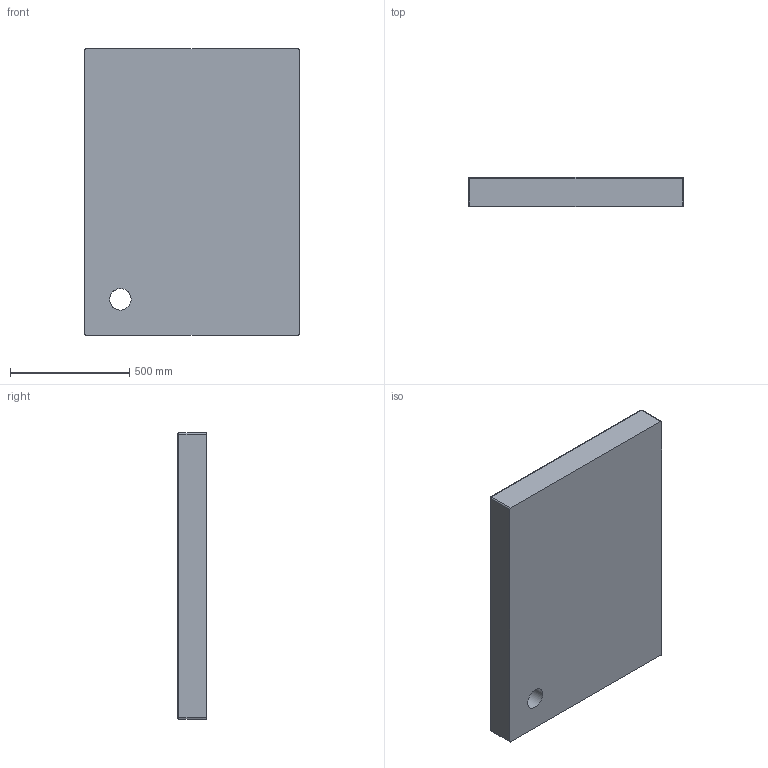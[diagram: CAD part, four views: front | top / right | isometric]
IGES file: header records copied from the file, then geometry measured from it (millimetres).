
Global section: file name: ad7126dc-87b1-44ab-a402-cac657bade87; native system: unknown; preprocessor: unknown; author: unknown; organization: unknown; date: 20200103.094341; units: millimetre
Bounding box: 900 x 120 x 1200 mm (x, y, z)
Volume: 110756444.6 mm3; surface area: 2728443.6 mm2
Topology: 1 solids, 1 shells, 47 faces, 98 edges, 54 vertices
Faces by surface type: bspline 47
